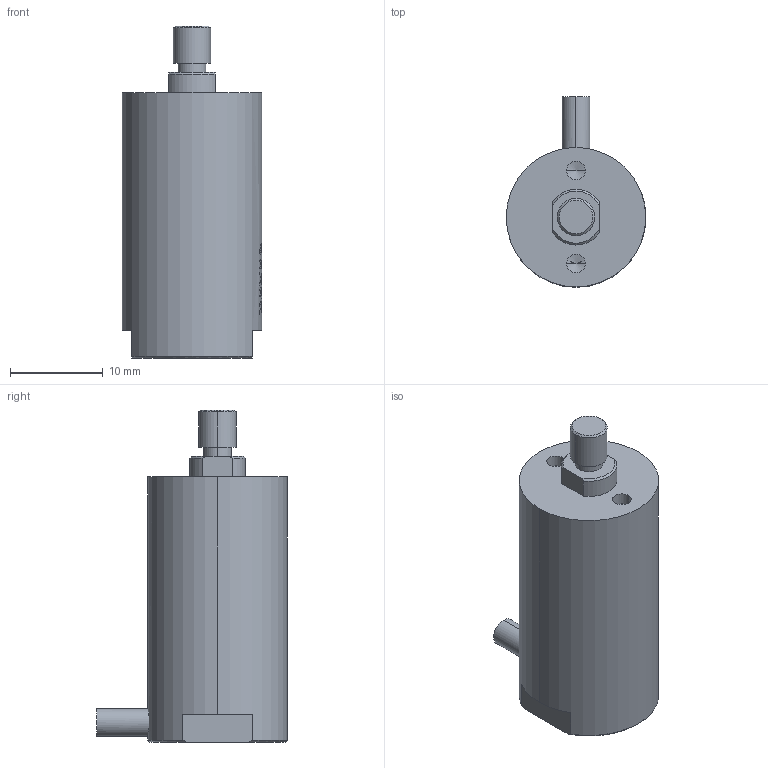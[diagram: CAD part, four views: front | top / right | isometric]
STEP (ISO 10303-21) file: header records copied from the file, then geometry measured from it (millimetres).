
FILE_DESCRIPTION (( 'STEP AP203' ), '1' );
FILE_NAME ('20VS15俋蹟恇.STEP', '2024-11-30T03:32:33', ( 'daohangxitong.com' ), ( 'daohangxitong.com' ), 'SwSTEP 2.0', 'SolidWorks 2016', '' );
FILE_SCHEMA (( 'CONFIG_CONTROL_DESIGN' ));
Products named in the file (1): 20VS15俋蹟恇
Bounding box: 15 x 20.5 x 35.7 mm (x, y, z)
Volume: 5103.3 mm3; surface area: 1922 mm2
Topology: 1 solids, 1 shells, 963 faces, 2768 edges, 1839 vertices
Faces by surface type: bspline 843, plane 54, cylinder 52, cone 14
Entity records: 51425 total; most frequent: CARTESIAN_POINT 33698, ORIENTED_EDGE 5524, EDGE_CURVE 2762, B_SPLINE_CURVE_WITH_KNOTS 2585, VERTEX_POINT 1839, EDGE_LOOP 1001, ADVANCED_FACE 963, FACE_OUTER_BOUND 963
